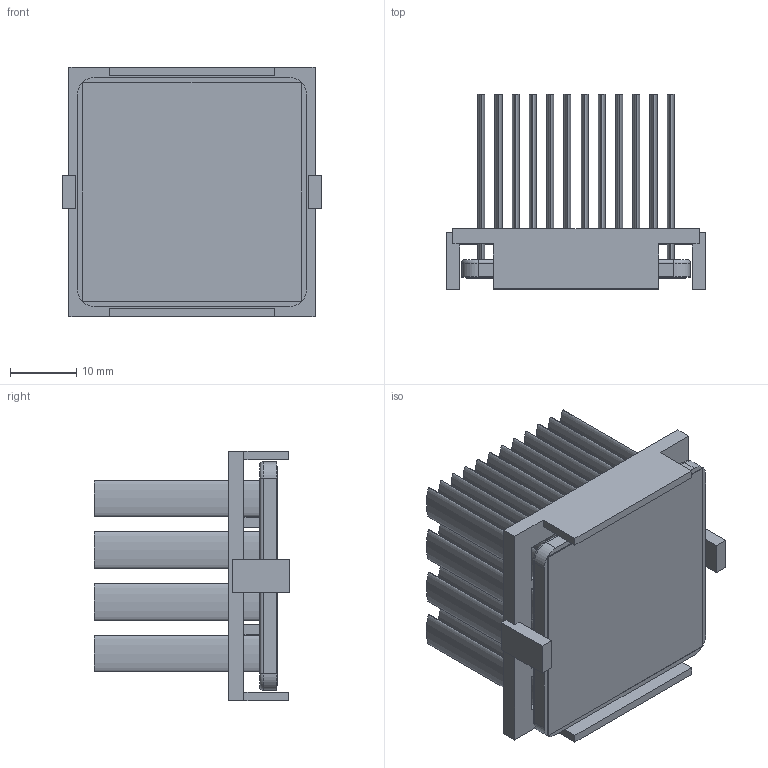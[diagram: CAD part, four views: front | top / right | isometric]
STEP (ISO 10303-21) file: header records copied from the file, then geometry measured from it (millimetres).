
FILE_DESCRIPTION (( 'STEP AP214' ), '1' );
FILE_NAME ('INM35001-28W-2.6BU.STEP', '2023-02-20T22:36:39', ( '' ), ( '' ), 'SwSTEP 2.0', 'SolidWorks 2020', '' );
FILE_SCHEMA (( 'AUTOMOTIVE_DESIGN' ));
Length unit declared in the file: inch
Products named in the file (1): INM35001-28W-2.6BU
Bounding box: 39.2 x 29.5 x 37.7 mm (x, y, z)
Volume: 10561.6 mm3; surface area: 21440.7 mm2
Topology: 3 solids, 3 shells, 222 faces, 496 edges, 328 vertices
Faces by surface type: plane 114, bspline 96, cylinder 8, torus 4
Entity records: 9276 total; most frequent: CARTESIAN_POINT 2295, ORIENTED_EDGE 992, DIRECTION 578, EDGE_CURVE 496, VERTEX_POINT 328, LINE 284, VECTOR 284, EDGE_LOOP 272
